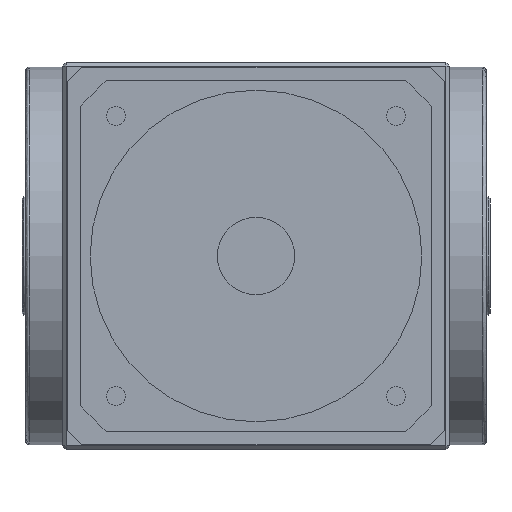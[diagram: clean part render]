
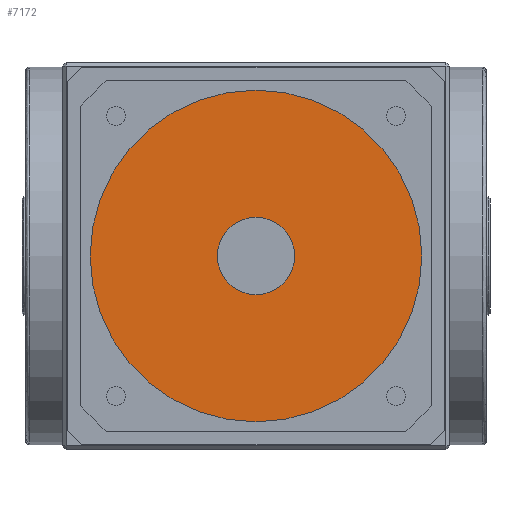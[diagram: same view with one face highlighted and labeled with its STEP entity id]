
A CAD part, front view. The second image highlights one B-rep face of the part: STEP entity #7172.
In plain terms, the highlighted planar face has unit normal (0, -1, 0).
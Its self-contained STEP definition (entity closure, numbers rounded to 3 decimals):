
#127 = DIRECTION ( 'NONE',  ( 0., 0., -1. ) ) ;
#806 = VERTEX_POINT ( 'NONE', #1855 ) ;
#882 = EDGE_CURVE ( 'NONE', #806, #1163, #6621, .T. ) ;
#1163 = VERTEX_POINT ( 'NONE', #2472 ) ;
#1187 = CARTESIAN_POINT ( 'NONE',  ( 0., -228., -21. ) ) ;
#1855 = CARTESIAN_POINT ( 'NONE',  ( 0., -228., -90. ) ) ;
#1871 = DIRECTION ( 'NONE',  ( 0., -1., 0. ) ) ;
#1892 = FACE_OUTER_BOUND ( 'NONE', #8578, .T. ) ;
#2472 = CARTESIAN_POINT ( 'NONE',  ( 0., -228., 90. ) ) ;
#2614 = FACE_BOUND ( 'NONE', #7412, .T. ) ;
#3048 = CARTESIAN_POINT ( 'NONE',  ( 0., -228., 0. ) ) ;
#3470 = CARTESIAN_POINT ( 'NONE',  ( 0., -228., 0. ) ) ;
#3505 = VERTEX_POINT ( 'NONE', #10709 ) ;
#3532 = DIRECTION ( 'NONE',  ( 0., -1., 0. ) ) ;
#3839 = DIRECTION ( 'NONE',  ( 0., 0., -1. ) ) ;
#3950 = CARTESIAN_POINT ( 'NONE',  ( 0., -228., 0. ) ) ;
#4711 = CIRCLE ( 'NONE', #6822, 21. ) ;
#4743 = DIRECTION ( 'NONE',  ( 0., 0., -1. ) ) ;
#5069 = DIRECTION ( 'NONE',  ( 0., -1., 0. ) ) ;
#5276 = EDGE_CURVE ( 'NONE', #3505, #5891, #7222, .T. ) ;
#5891 = VERTEX_POINT ( 'NONE', #1187 ) ;
#6522 = EDGE_CURVE ( 'NONE', #5891, #3505, #4711, .T. ) ;
#6621 = CIRCLE ( 'NONE', #10183, 90. ) ;
#6661 = EDGE_CURVE ( 'NONE', #1163, #806, #8823, .T. ) ;
#6684 = PLANE ( 'NONE',  #7765 ) ;
#6822 = AXIS2_PLACEMENT_3D ( 'NONE', #3950, #9743, #4743 ) ;
#6866 = AXIS2_PLACEMENT_3D ( 'NONE', #10100, #5069, #127 ) ;
#7172 = ADVANCED_FACE ( 'NONE', ( #1892, #2614 ), #6684, .T. ) ;
#7222 = CIRCLE ( 'NONE', #7738, 21. ) ;
#7412 = EDGE_LOOP ( 'NONE', ( #9826, #10223 ) ) ;
#7550 = DIRECTION ( 'NONE',  ( 0., 0., -1. ) ) ;
#7738 = AXIS2_PLACEMENT_3D ( 'NONE', #3048, #8794, #3839 ) ;
#7765 = AXIS2_PLACEMENT_3D ( 'NONE', #3470, #1871, #7550 ) ;
#7927 = ORIENTED_EDGE ( 'NONE', *, *, #882, .T. ) ;
#8440 = CARTESIAN_POINT ( 'NONE',  ( 0., -228., 0. ) ) ;
#8578 = EDGE_LOOP ( 'NONE', ( #7927, #8913 ) ) ;
#8794 = DIRECTION ( 'NONE',  ( 0., 1., 0. ) ) ;
#8823 = CIRCLE ( 'NONE', #6866, 90. ) ;
#8913 = ORIENTED_EDGE ( 'NONE', *, *, #6661, .T. ) ;
#9312 = DIRECTION ( 'NONE',  ( 0., 0., -1. ) ) ;
#9743 = DIRECTION ( 'NONE',  ( 0., 1., 0. ) ) ;
#9826 = ORIENTED_EDGE ( 'NONE', *, *, #6522, .T. ) ;
#10100 = CARTESIAN_POINT ( 'NONE',  ( 0., -228., 0. ) ) ;
#10183 = AXIS2_PLACEMENT_3D ( 'NONE', #8440, #3532, #9312 ) ;
#10223 = ORIENTED_EDGE ( 'NONE', *, *, #5276, .T. ) ;
#10709 = CARTESIAN_POINT ( 'NONE',  ( 0., -228., 21. ) ) ;
